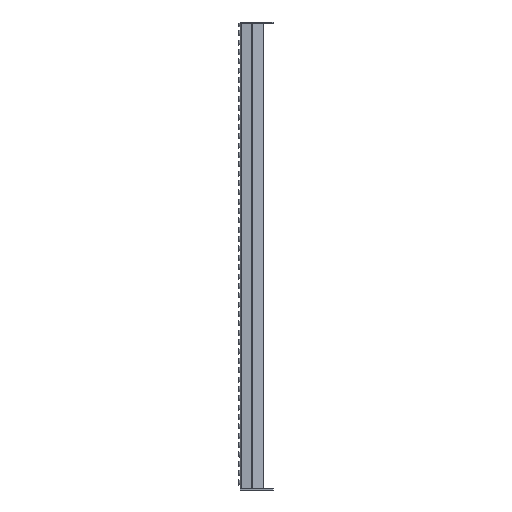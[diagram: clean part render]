
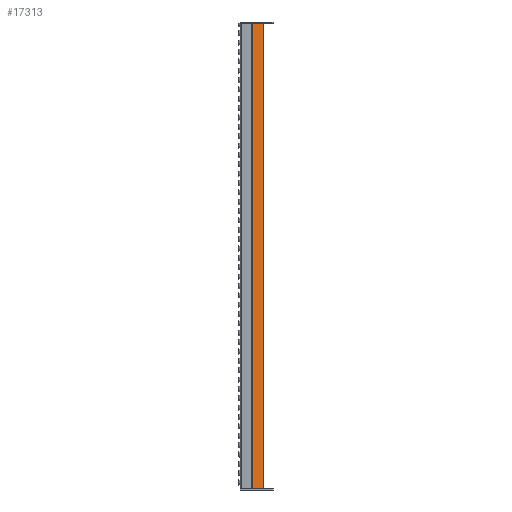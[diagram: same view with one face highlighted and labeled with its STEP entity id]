
A CAD part, left-side view. The second image highlights one B-rep face of the part: STEP entity #17313.
In plain terms, the highlighted planar face has unit normal (-0.94, -0.342, 0).
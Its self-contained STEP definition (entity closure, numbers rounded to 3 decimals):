
#2371=FACE_OUTER_BOUND('',#3680,.T.);
#3680=EDGE_LOOP('',(#14253,#14254,#14255,#14256));
#4889=LINE('',#31830,#6529);
#4908=LINE('',#31877,#6548);
#4910=LINE('',#31883,#6550);
#4914=LINE('',#31890,#6554);
#6529=VECTOR('',#22647,10.);
#6548=VECTOR('',#22690,10.);
#6550=VECTOR('',#22696,10.);
#6554=VECTOR('',#22704,10.);
#8303=VERTEX_POINT('',#31827);
#8304=VERTEX_POINT('',#31829);
#8320=VERTEX_POINT('',#31876);
#8322=VERTEX_POINT('',#31882);
#10372=EDGE_CURVE('',#8304,#8303,#4889,.T.);
#10396=EDGE_CURVE('',#8303,#8320,#4908,.T.);
#10399=EDGE_CURVE('',#8322,#8304,#4910,.T.);
#10403=EDGE_CURVE('',#8320,#8322,#4914,.T.);
#14253=ORIENTED_EDGE('',*,*,#10396,.T.);
#14254=ORIENTED_EDGE('',*,*,#10403,.T.);
#14255=ORIENTED_EDGE('',*,*,#10399,.T.);
#14256=ORIENTED_EDGE('',*,*,#10372,.T.);
#16305=PLANE('',#18952);
#17313=ADVANCED_FACE('',(#2371),#16305,.T.);
#18952=AXIS2_PLACEMENT_3D('',#31889,#22702,#22703);
#22647=DIRECTION('',(-0.342,0.94,0.));
#22690=DIRECTION('',(0.,0.,-1.));
#22696=DIRECTION('',(0.,0.,1.));
#22702=DIRECTION('center_axis',(-0.94,-0.342,0.));
#22703=DIRECTION('ref_axis',(0.,0.,1.));
#22704=DIRECTION('',(0.342,-0.94,0.));
#31827=CARTESIAN_POINT('',(0.196,-25.539,994.));
#31829=CARTESIAN_POINT('',(9.099,-50.,994.));
#31830=CARTESIAN_POINT('',(0.,-25.,994.));
#31876=CARTESIAN_POINT('',(0.196,-25.539,0.));
#31877=CARTESIAN_POINT('',(0.196,-25.539,0.));
#31882=CARTESIAN_POINT('',(9.099,-50.,0.));
#31883=CARTESIAN_POINT('',(9.099,-50.,0.));
#31889=CARTESIAN_POINT('Origin',(9.099,-50.,0.));
#31890=CARTESIAN_POINT('',(0.,-25.,0.));
